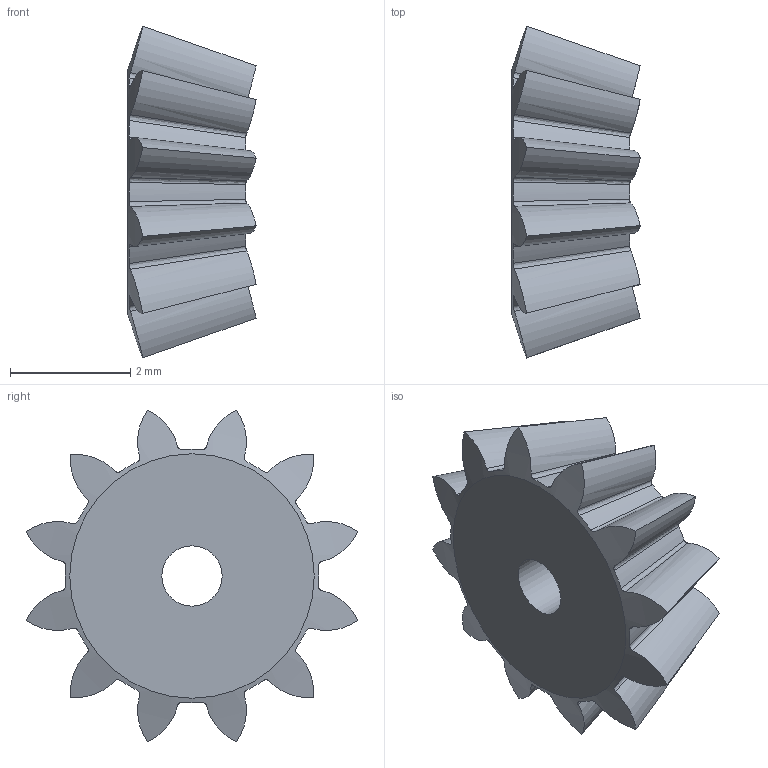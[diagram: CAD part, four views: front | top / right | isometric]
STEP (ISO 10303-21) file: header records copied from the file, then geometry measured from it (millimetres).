
FILE_DESCRIPTION(/* description */ (''),/* implementation_level */ '2;1');
FILE_NAME(/* name */ '01-038_Metric - Straight bevel pinion 0.4M12PT 40GT 20PA 2FW ---12O5H6MD1N.stp',/* time_stamp */ '2023-08-14T21:49:43+03:00',/* author */ ('mosta'),/* organization */ (''),/* preprocessor_version */ 'ST-DEVELOPER v19.2',/* originating_system */ 'Autodesk Inventor 2024',/* authorisation */ '');
FILE_SCHEMA (('AUTOMOTIVE_DESIGN { 1 0 10303 214 3 1 1 }'));
Length unit declared in the file: millimetre
Products named in the file (1): 01-038_Metric - Straight bevel pinion 0.4M12PT 40GT 20PA 2FW ---12O5H
6MD1N
Bounding box: 2.13 x 5.51 x 5.51 mm (x, y, z)
Volume: 26.5 mm3; surface area: 80.1 mm2
Topology: 1 solids, 1 shells, 65 faces, 189 edges, 126 vertices
Faces by surface type: bspline 60, cone 2, plane 2, cylinder 1
Full cylindrical faces by diameter (mm): 1 x1
Entity records: 3531 total; most frequent: CARTESIAN_POINT 2218, ORIENTED_EDGE 378, EDGE_CURVE 189, VERTEX_POINT 126, B_SPLINE_CURVE_WITH_KNOTS 121, DIRECTION 97, EDGE_LOOP 67, FACE_OUTER_BOUND 65
